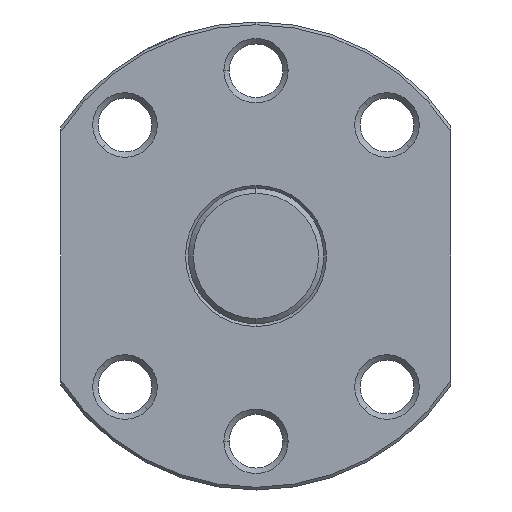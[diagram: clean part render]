
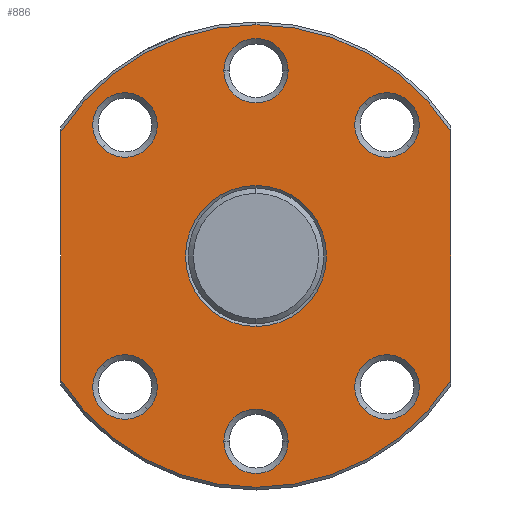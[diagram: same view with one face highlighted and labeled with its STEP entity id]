
A CAD part, left-side view. The second image highlights one B-rep face of the part: STEP entity #886.
In plain terms, the highlighted planar face has unit normal (-1, 0, 0).
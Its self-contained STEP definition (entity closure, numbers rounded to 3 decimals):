
#394=EDGE_CURVE('',#1074,#668,#1127,.T.);
#422=EDGE_CURVE('',#724,#810,#1160,.T.);
#428=EDGE_CURVE('',#668,#1074,#1168,.T.);
#454=EDGE_CURVE('',#480,#538,#1194,.T.);
#480=VERTEX_POINT('',#1220);
#486=EDGE_CURVE('',#708,#626,#1226,.T.);
#528=EDGE_CURVE('',#1042,#880,#1274,.T.);
#538=VERTEX_POINT('',#1284);
#550=VERTEX_POINT('',#1297);
#556=EDGE_CURVE('',#622,#670,#1303,.T.);
#588=VERTEX_POINT('',#1339);
#614=EDGE_CURVE('',#708,#774,#1369,.T.);
#618=EDGE_CURVE('',#736,#672,#1373,.T.);
#622=VERTEX_POINT('',#1377);
#626=VERTEX_POINT('',#1381);
#634=EDGE_CURVE('',#1002,#1080,#1390,.T.);
#640=EDGE_CURVE('',#774,#670,#1397,.T.);
#668=VERTEX_POINT('',#1428);
#670=VERTEX_POINT('',#1430);
#672=VERTEX_POINT('',#1432);
#692=VERTEX_POINT('',#1456);
#708=VERTEX_POINT('',#1475);
#718=EDGE_CURVE('',#588,#692,#1485,.T.);
#724=VERTEX_POINT('',#1492);
#726=EDGE_CURVE('',#1080,#1002,#1494,.T.);
#736=VERTEX_POINT('',#1505);
#774=VERTEX_POINT('',#1543);
#796=EDGE_CURVE('',#692,#588,#1567,.T.);
#810=VERTEX_POINT('',#1581);
#862=EDGE_CURVE('',#538,#480,#1643,.T.);
#876=EDGE_CURVE('',#880,#1042,#1659,.T.);
#880=VERTEX_POINT('',#1663);
#886=ADVANCED_FACE('',(#1669,#1670,#1671,#1672,#1673,#1674,#1675,#1676),#1677,.T.);
#906=EDGE_CURVE('',#622,#550,#1698,.T.);
#950=EDGE_CURVE('',#672,#736,#1749,.T.);
#964=EDGE_CURVE('',#550,#626,#1765,.T.);
#968=EDGE_CURVE('',#810,#724,#1770,.T.);
#1002=VERTEX_POINT('',#1807);
#1042=VERTEX_POINT('',#1861);
#1074=VERTEX_POINT('',#1899);
#1080=VERTEX_POINT('',#1907);
#1127=CIRCLE('',#1950,3.3);
#1160=CIRCLE('',#1991,3.3);
#1168=CIRCLE('',#2000,3.3);
#1194=CIRCLE('',#2048,3.3);
#1220=CARTESIAN_POINT('',(25.0,-15.768,11.102));
#1226=LINE('',#2094,#2095);
#1274=CIRCLE('',#2165,7.228);
#1284=CARTESIAN_POINT('',(25.0,-11.102,15.768));
#1297=CARTESIAN_POINT('',(25.0,0.,23.722));
#1303=LINE('',#2203,#2204);
#1339=CARTESIAN_POINT('',(25.0,15.768,11.102));
#1369=CIRCLE('',#2295,23.722);
#1373=CIRCLE('',#2302,3.3);
#1377=CARTESIAN_POINT('',(25.0,20.0,12.757));
#1381=CARTESIAN_POINT('',(25.0,-20.0,12.757));
#1390=CIRCLE('',#2326,3.3);
#1397=CIRCLE('',#2344,23.722);
#1428=CARTESIAN_POINT('',(25.0,15.768,-11.102));
#1430=CARTESIAN_POINT('',(25.0,20.0,-12.757));
#1432=CARTESIAN_POINT('',(25.0,3.3,19.0));
#1456=CARTESIAN_POINT('',(25.0,11.102,15.768));
#1475=CARTESIAN_POINT('',(25.0,-20.0,-12.757));
#1485=CIRCLE('',#2456,3.3);
#1492=CARTESIAN_POINT('',(25.0,-15.768,-11.102));
#1494=CIRCLE('',#2467,3.3);
#1505=CARTESIAN_POINT('',(25.0,-3.3,19.0));
#1543=CARTESIAN_POINT('',(25.0,0.,-23.722));
#1567=CIRCLE('',#2613,3.3);
#1581=CARTESIAN_POINT('',(25.0,-11.102,-15.768));
#1643=CIRCLE('',#2708,3.3);
#1659=CIRCLE('',#2729,7.228);
#1663=CARTESIAN_POINT('',(25.0,0.0,7.228));
#1669=FACE_BOUND('',#2740,.T.);
#1670=FACE_OUTER_BOUND('',#2741,.T.);
#1671=FACE_BOUND('',#2742,.T.);
#1672=FACE_BOUND('',#2743,.T.);
#1673=FACE_BOUND('',#2744,.T.);
#1674=FACE_BOUND('',#2745,.T.);
#1675=FACE_BOUND('',#2746,.T.);
#1676=FACE_BOUND('',#2747,.T.);
#1677=PLANE('',#2748);
#1698=CIRCLE('',#2775,23.722);
#1749=CIRCLE('',#2851,3.3);
#1765=CIRCLE('',#2879,23.722);
#1770=CIRCLE('',#2885,3.3);
#1807=CARTESIAN_POINT('',(25.0,-3.3,-19.0));
#1861=CARTESIAN_POINT('',(25.0,0.,-7.228));
#1899=CARTESIAN_POINT('',(25.0,11.102,-15.768));
#1907=CARTESIAN_POINT('',(25.0,3.3,-19.0));
#1950=AXIS2_PLACEMENT_3D('',#3141,#3142,#3143);
#1991=AXIS2_PLACEMENT_3D('',#3190,#3191,#3192);
#2000=AXIS2_PLACEMENT_3D('',#3208,#3209,#3210);
#2048=AXIS2_PLACEMENT_3D('',#3224,#3225,#3226);
#2094=CARTESIAN_POINT('',(25.0,-20.0,5.931));
#2095=VECTOR('',#3240,1.0);
#2165=AXIS2_PLACEMENT_3D('',#3311,#3312,#3313);
#2203=CARTESIAN_POINT('',(25.0,20.0,5.931));
#2204=VECTOR('',#3331,1.0);
#2295=AXIS2_PLACEMENT_3D('',#3418,#3419,#3420);
#2302=AXIS2_PLACEMENT_3D('',#3422,#3423,#3424);
#2326=AXIS2_PLACEMENT_3D('',#3436,#3437,#3438);
#2344=AXIS2_PLACEMENT_3D('',#3447,#3448,#3449);
#2456=AXIS2_PLACEMENT_3D('',#3566,#3567,#3568);
#2467=AXIS2_PLACEMENT_3D('',#3580,#3581,#3582);
#2613=AXIS2_PLACEMENT_3D('',#3661,#3662,#3663);
#2708=AXIS2_PLACEMENT_3D('',#3765,#3766,#3767);
#2729=AXIS2_PLACEMENT_3D('',#3786,#3787,#3788);
#2740=EDGE_LOOP('',(#3793,#3794));
#2741=EDGE_LOOP('',(#3795,#3796,#3797,#3798,#3799,#3800));
#2742=EDGE_LOOP('',(#3801,#3802));
#2743=EDGE_LOOP('',(#3803,#3804));
#2744=EDGE_LOOP('',(#3805,#3806));
#2745=EDGE_LOOP('',(#3807,#3808));
#2746=EDGE_LOOP('',(#3809,#3810));
#2747=EDGE_LOOP('',(#3811,#3812));
#2748=AXIS2_PLACEMENT_3D('',#3813,#3814,#3815);
#2775=AXIS2_PLACEMENT_3D('',#3834,#3835,#3836);
#2851=AXIS2_PLACEMENT_3D('',#3915,#3916,#3917);
#2879=AXIS2_PLACEMENT_3D('',#3937,#3938,#3939);
#2885=AXIS2_PLACEMENT_3D('',#3952,#3953,#3954);
#3141=CARTESIAN_POINT('',(25.0,13.435,-13.435));
#3142=DIRECTION('',(1.0,0.0,0.));
#3143=DIRECTION('',(0.,-0.707,-0.707));
#3190=CARTESIAN_POINT('',(25.0,-13.435,-13.435));
#3191=DIRECTION('',(1.0,0.0,0.));
#3192=DIRECTION('',(0.,-0.707,0.707));
#3208=CARTESIAN_POINT('',(25.0,13.435,-13.435));
#3209=DIRECTION('',(1.0,0.0,0.));
#3210=DIRECTION('',(0.,-0.707,-0.707));
#3224=CARTESIAN_POINT('',(25.0,-13.435,13.435));
#3225=DIRECTION('',(1.0,0.0,0.));
#3226=DIRECTION('',(0.,0.707,0.707));
#3240=DIRECTION('',(0.,0.0,1.0));
#3311=CARTESIAN_POINT('',(25.0,0.0,0.0));
#3312=DIRECTION('',(1.0,0.0,0.));
#3313=DIRECTION('',(0.,0.0,1.0));
#3331=DIRECTION('',(0.,0.0,-1.0));
#3418=CARTESIAN_POINT('',(25.0,0.0,0.0));
#3419=DIRECTION('',(1.0,0.0,-0.0));
#3420=DIRECTION('',(0.0,0.0,1.0));
#3422=CARTESIAN_POINT('',(25.0,0.0,19.0));
#3423=DIRECTION('',(1.0,0.0,0.));
#3424=DIRECTION('',(0.0,1.0,0.0));
#3436=CARTESIAN_POINT('',(25.0,0.0,-19.0));
#3437=DIRECTION('',(1.0,0.0,0.));
#3438=DIRECTION('',(0.0,-1.0,0.0));
#3447=CARTESIAN_POINT('',(25.0,0.0,0.0));
#3448=DIRECTION('',(1.0,0.0,-0.0));
#3449=DIRECTION('',(0.0,0.0,1.0));
#3566=CARTESIAN_POINT('',(25.0,13.435,13.435));
#3567=DIRECTION('',(1.0,0.0,0.));
#3568=DIRECTION('',(0.,0.707,-0.707));
#3580=CARTESIAN_POINT('',(25.0,0.0,-19.0));
#3581=DIRECTION('',(1.0,0.0,0.));
#3582=DIRECTION('',(0.0,-1.0,0.0));
#3661=CARTESIAN_POINT('',(25.0,13.435,13.435));
#3662=DIRECTION('',(1.0,0.0,0.));
#3663=DIRECTION('',(0.,0.707,-0.707));
#3765=CARTESIAN_POINT('',(25.0,-13.435,13.435));
#3766=DIRECTION('',(1.0,0.0,0.));
#3767=DIRECTION('',(0.,0.707,0.707));
#3786=CARTESIAN_POINT('',(25.0,0.0,0.0));
#3787=DIRECTION('',(1.0,0.0,0.));
#3788=DIRECTION('',(0.,0.0,1.0));
#3793=ORIENTED_EDGE('',*,*,#876,.T.);
#3794=ORIENTED_EDGE('',*,*,#528,.T.);
#3795=ORIENTED_EDGE('',*,*,#556,.T.);
#3796=ORIENTED_EDGE('',*,*,#640,.F.);
#3797=ORIENTED_EDGE('',*,*,#614,.F.);
#3798=ORIENTED_EDGE('',*,*,#486,.T.);
#3799=ORIENTED_EDGE('',*,*,#964,.F.);
#3800=ORIENTED_EDGE('',*,*,#906,.F.);
#3801=ORIENTED_EDGE('',*,*,#422,.T.);
#3802=ORIENTED_EDGE('',*,*,#968,.T.);
#3803=ORIENTED_EDGE('',*,*,#634,.T.);
#3804=ORIENTED_EDGE('',*,*,#726,.T.);
#3805=ORIENTED_EDGE('',*,*,#394,.T.);
#3806=ORIENTED_EDGE('',*,*,#428,.T.);
#3807=ORIENTED_EDGE('',*,*,#718,.T.);
#3808=ORIENTED_EDGE('',*,*,#796,.T.);
#3809=ORIENTED_EDGE('',*,*,#950,.T.);
#3810=ORIENTED_EDGE('',*,*,#618,.T.);
#3811=ORIENTED_EDGE('',*,*,#862,.T.);
#3812=ORIENTED_EDGE('',*,*,#454,.T.);
#3813=CARTESIAN_POINT('',(25.0,0.0,11.861));
#3814=DIRECTION('',(-1.0,0.0,0.));
#3815=DIRECTION('',(0.,0.0,-1.0));
#3834=CARTESIAN_POINT('',(25.0,0.0,0.0));
#3835=DIRECTION('',(1.0,0.0,-0.0));
#3836=DIRECTION('',(0.0,0.0,1.0));
#3915=CARTESIAN_POINT('',(25.0,0.0,19.0));
#3916=DIRECTION('',(1.0,0.0,0.));
#3917=DIRECTION('',(0.0,1.0,0.0));
#3937=CARTESIAN_POINT('',(25.0,0.0,0.0));
#3938=DIRECTION('',(1.0,0.0,-0.0));
#3939=DIRECTION('',(0.0,0.0,1.0));
#3952=CARTESIAN_POINT('',(25.0,-13.435,-13.435));
#3953=DIRECTION('',(1.0,0.0,0.));
#3954=DIRECTION('',(0.,-0.707,0.707));
